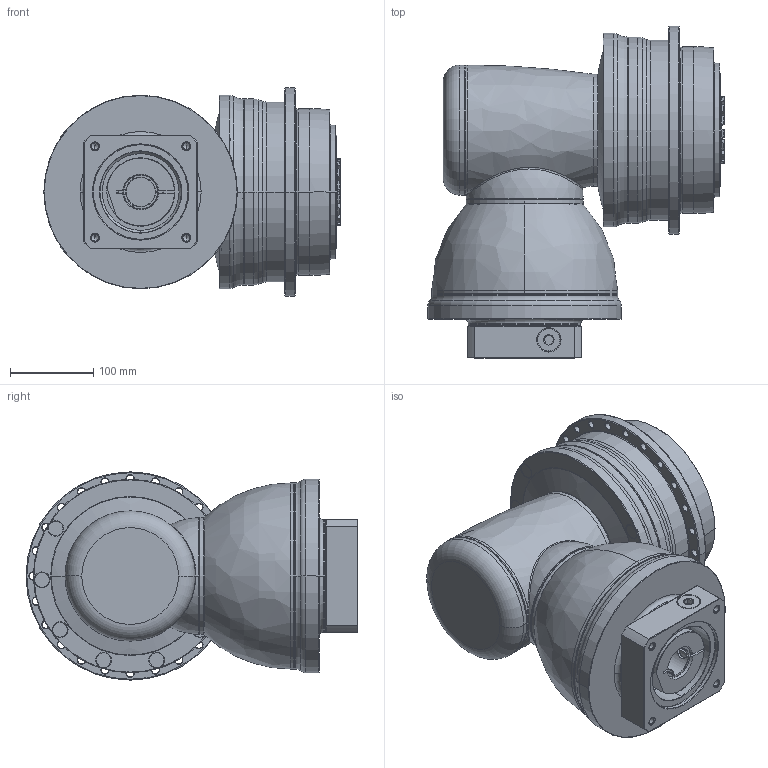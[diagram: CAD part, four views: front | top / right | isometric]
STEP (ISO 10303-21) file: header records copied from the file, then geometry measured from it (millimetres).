
FILE_DESCRIPTION((''),'2;1');
FILE_NAME('APCK200_2ST_SBG_35-P0409800201_ASM','2018-05-18T',('d01226'),(''),'PRO/ENGINEER BY PARAMETRIC TECHNOLOGY CORPORATION, 2008410','PRO/ENGINEER BY PARAMETRIC TECHNOLOGY CORPORATION, 2008410','');
FILE_SCHEMA(('CONFIG_CONTROL_DESIGN'));
Length unit declared in the file: millimetre
Products named in the file (13): P0278601003; P0359660103; P1211600001; P1802610001; P1018600002; P1365600001; P1007601001; P1318610101; P0409800201; P0503800012; P0912601001; 21711422019; APCK200_2ST_SBG_35-P0409800201_ASM
Assembly tree (12 placements, depth 2):
  APCK200_2ST_SBG_35-P0409800201_ASM
    P0278601003
    P0359660103
    P1211600001
    P1802610001
    P1018600002
    P1365600001
    P1007601001
    P1318610101
    P0409800201
    P0503800012
    P0912601001
    21711422019
Bounding box: 355.1 x 397.75 x 249.5 mm (x, y, z)
Volume: 14689871.9 mm3; surface area: 1013420.9 mm2
Topology: 13 solids, 23 shells, 797 faces, 1863 edges, 1138 vertices
Faces by surface type: cylinder 266, cone 236, plane 153, torus 114, bspline 26, sphere 2
Entity records: 29455 total; most frequent: CARTESIAN_POINT 10550, DIRECTION 4293, ORIENTED_EDGE 3656, AXIS2_PLACEMENT_3D 1877, EDGE_CURVE 1849, VERTEX_POINT 1138, CIRCLE 1071, EDGE_LOOP 921
